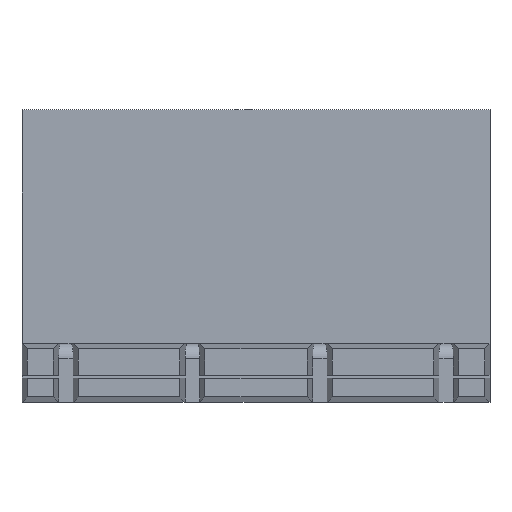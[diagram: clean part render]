
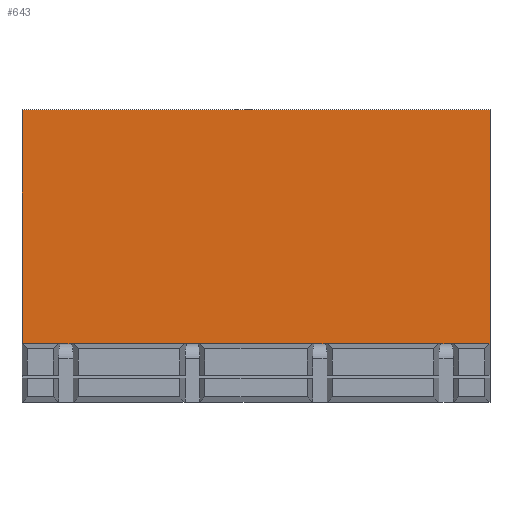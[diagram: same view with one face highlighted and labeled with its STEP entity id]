
A CAD part, top view. The second image highlights one B-rep face of the part: STEP entity #643.
In plain terms, the highlighted planar face has unit normal (0, 0, 1).
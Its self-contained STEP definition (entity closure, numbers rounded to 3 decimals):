
#643=ADVANCED_FACE('',(#1152),#1154,.T.);
#1152=FACE_BOUND('',#1153,.T.);
#1153=EDGE_LOOP('',(#1527,#1528,#1529,#1530,#1531,#1532,#1533,#1534,#1535,#1536,
#1537,#1538));
#1154=PLANE('',#1155);
#1155=AXIS2_PLACEMENT_3D('',#1156,#1157,#1158);
#1156=CARTESIAN_POINT('',(0.,0.,8.));
#1157=DIRECTION('',(0.,0.,1.));
#1158=DIRECTION('',(1.,0.,0.));
#1527=ORIENTED_EDGE('',*,*,#1711,.T.);
#1528=ORIENTED_EDGE('',*,*,#1738,.T.);
#1529=ORIENTED_EDGE('',*,*,#1704,.T.);
#1530=ORIENTED_EDGE('',*,*,#1724,.F.);
#1531=ORIENTED_EDGE('',*,*,#1716,.F.);
#1532=ORIENTED_EDGE('',*,*,#1727,.F.);
#1533=ORIENTED_EDGE('',*,*,#1715,.F.);
#1534=ORIENTED_EDGE('',*,*,#1731,.F.);
#1535=ORIENTED_EDGE('',*,*,#1714,.F.);
#1536=ORIENTED_EDGE('',*,*,#1734,.F.);
#1537=ORIENTED_EDGE('',*,*,#1713,.F.);
#1538=ORIENTED_EDGE('',*,*,#1737,.F.);
#1704=EDGE_CURVE('',#1992,#1990,#1993,.T.);
#1711=EDGE_CURVE('',#2005,#2003,#2006,.F.);
#1713=EDGE_CURVE('',#1959,#1939,#2008,.T.);
#1714=EDGE_CURVE('',#1923,#1903,#2009,.T.);
#1715=EDGE_CURVE('',#1887,#1867,#2010,.T.);
#1716=EDGE_CURVE('',#1851,#1831,#2011,.T.);
#1724=EDGE_CURVE('',#1831,#1990,#2019,.T.);
#1727=EDGE_CURVE('',#1867,#1851,#2022,.T.);
#1731=EDGE_CURVE('',#1903,#1887,#2026,.T.);
#1734=EDGE_CURVE('',#1939,#1923,#2029,.T.);
#1737=EDGE_CURVE('',#2005,#1959,#2032,.T.);
#1738=EDGE_CURVE('',#2003,#1992,#2033,.F.);
#1831=VERTEX_POINT('',#2220);
#1851=VERTEX_POINT('',#2263);
#1867=VERTEX_POINT('',#2302);
#1887=VERTEX_POINT('',#2345);
#1903=VERTEX_POINT('',#2384);
#1923=VERTEX_POINT('',#2427);
#1939=VERTEX_POINT('',#2466);
#1959=VERTEX_POINT('',#2509);
#1990=VERTEX_POINT('',#2583);
#1992=VERTEX_POINT('',#2587);
#1993=LINE('',#2588,#2589);
#2003=VERTEX_POINT('',#2610);
#2005=VERTEX_POINT('',#2614);
#2006=LINE('',#2615,#2616);
#2008=LINE('',#2621,#2622);
#2009=LINE('',#2624,#2625);
#2010=LINE('',#2627,#2628);
#2011=LINE('',#2630,#2631);
#2019=LINE('',#2654,#2655);
#2022=LINE('',#2663,#2664);
#2026=LINE('',#2675,#2676);
#2029=LINE('',#2684,#2685);
#2032=LINE('',#2693,#2694);
#2033=LINE('',#2696,#2697);
#2220=CARTESIAN_POINT('',(2.641,3.998,8.));
#2263=CARTESIAN_POINT('',(3.359,3.997,8.));
#2302=CARTESIAN_POINT('',(11.287,3.991,8.));
#2345=CARTESIAN_POINT('',(12.006,3.991,8.));
#2384=CARTESIAN_POINT('',(20.008,3.984,8.));
#2427=CARTESIAN_POINT('',(20.727,3.984,8.));
#2466=CARTESIAN_POINT('',(28.641,3.977,8.));
#2509=CARTESIAN_POINT('',(29.359,3.977,8.));
#2583=CARTESIAN_POINT('',(0.,4.,8.));
#2587=CARTESIAN_POINT('',(0.,20.,8.));
#2588=CARTESIAN_POINT('',(0.,20.,8.));
#2589=VECTOR('',#2590,1.);
#2590=DIRECTION('',(0.,-1.,0.));
#2610=CARTESIAN_POINT('',(32.,20.,8.));
#2614=CARTESIAN_POINT('',(32.,3.975,8.));
#2615=CARTESIAN_POINT('',(32.,20.,8.));
#2616=VECTOR('',#2617,1.);
#2617=DIRECTION('',(0.,-1.,0.));
#2621=CARTESIAN_POINT('',(29.359,3.977,8.));
#2622=VECTOR('',#2623,1.);
#2623=DIRECTION('',(-1.,0.001,0.));
#2624=CARTESIAN_POINT('',(20.727,3.984,8.));
#2625=VECTOR('',#2626,1.);
#2626=DIRECTION('',(-1.,0.001,0.));
#2627=CARTESIAN_POINT('',(12.006,3.991,8.));
#2628=VECTOR('',#2629,1.);
#2629=DIRECTION('',(-1.,0.001,0.));
#2630=CARTESIAN_POINT('',(3.359,3.997,8.));
#2631=VECTOR('',#2632,1.);
#2632=DIRECTION('',(-1.,0.001,0.));
#2654=CARTESIAN_POINT('',(2.641,3.998,8.));
#2655=VECTOR('',#2656,1.);
#2656=DIRECTION('',(-1.,0.001,0.));
#2663=CARTESIAN_POINT('',(11.287,3.991,8.));
#2664=VECTOR('',#2665,1.);
#2665=DIRECTION('',(-1.,0.001,0.));
#2675=CARTESIAN_POINT('',(20.008,3.984,8.));
#2676=VECTOR('',#2677,1.);
#2677=DIRECTION('',(-1.,0.001,0.));
#2684=CARTESIAN_POINT('',(28.641,3.977,8.));
#2685=VECTOR('',#2686,1.);
#2686=DIRECTION('',(-1.,0.001,0.));
#2693=CARTESIAN_POINT('',(32.,3.975,8.));
#2694=VECTOR('',#2695,1.);
#2695=DIRECTION('',(-1.,0.001,0.));
#2696=CARTESIAN_POINT('',(0.,20.,8.));
#2697=VECTOR('',#2698,1.);
#2698=DIRECTION('',(1.,0.,0.));
